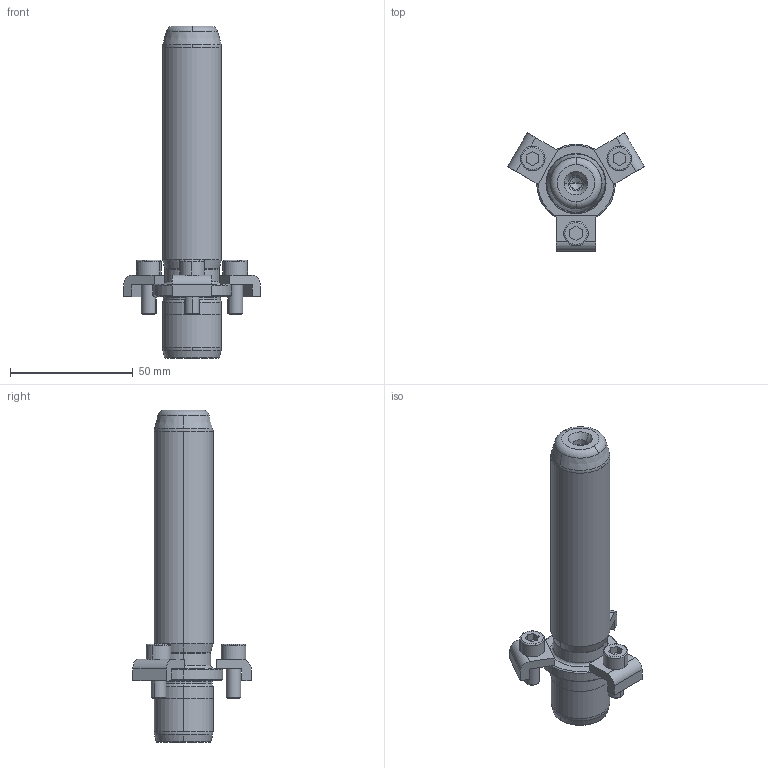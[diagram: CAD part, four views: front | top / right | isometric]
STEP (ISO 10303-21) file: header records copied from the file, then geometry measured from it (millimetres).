
FILE_DESCRIPTION((''),'2;1');
FILE_NAME('P21_024_110.stp','2008-12-23T09:26:44',(''),(''),'Mechanical Desktop 2009','Mechanical Desktop 2009',', , ');
FILE_SCHEMA(('CONFIG_CONTROL_DESIGN'));
Length unit declared in the file: millimetre
Products named in the file (2): Product; blmdl1
Assembly tree (1 placements, depth 2):
  Product
    blmdl1
Bounding box: 55.58 x 48.13 x 135 mm (x, y, z)
Volume: 65726.8 mm3; surface area: 16834.7 mm2
Topology: 7 solids, 7 shells, 163 faces, 417 edges, 269 vertices
Faces by surface type: plane 59, cylinder 44, cone 32, torus 14, bspline 14
Entity records: 5679 total; most frequent: CARTESIAN_POINT 1511, DIRECTION 914, ORIENTED_EDGE 826, EDGE_CURVE 413, AXIS2_PLACEMENT_3D 362, VERTEX_POINT 269, CIRCLE 211, VECTOR 190
